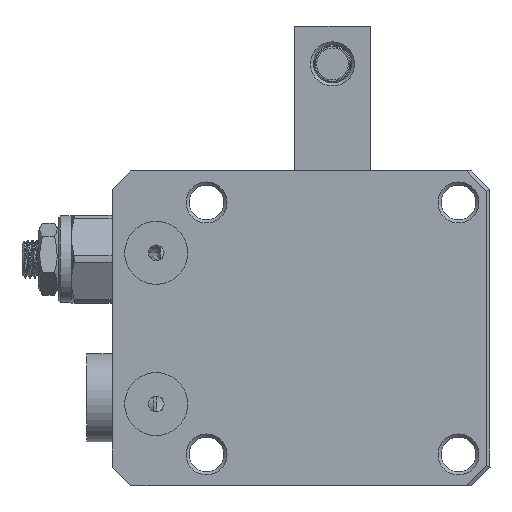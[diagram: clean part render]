
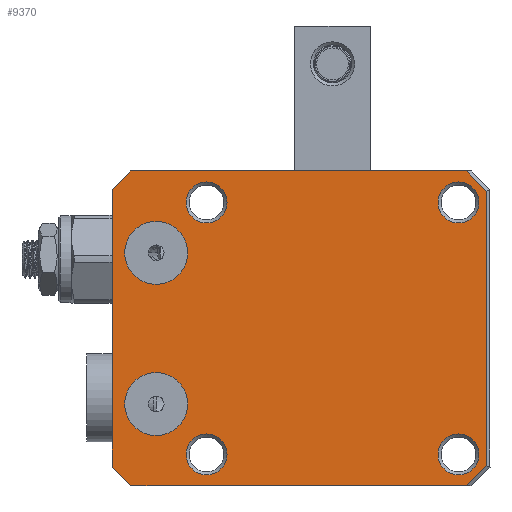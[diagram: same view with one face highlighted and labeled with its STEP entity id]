
A CAD part, front view. The second image highlights one B-rep face of the part: STEP entity #9370.
In plain terms, the highlighted planar face has unit normal (0, -1, 0).
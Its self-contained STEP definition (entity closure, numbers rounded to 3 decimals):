
#293=PLANE('',#10197);
#462=FACE_BOUND('',#1492,.T.);
#463=FACE_BOUND('',#1493,.T.);
#464=FACE_BOUND('',#1494,.T.);
#465=FACE_BOUND('',#1495,.T.);
#466=FACE_BOUND('',#1496,.T.);
#467=FACE_BOUND('',#1497,.T.);
#931=FACE_OUTER_BOUND('',#1491,.T.);
#1491=EDGE_LOOP('',(#6468,#6469,#6470,#6471,#6472,#6473,#6474,#6475));
#1492=EDGE_LOOP('',(#6476));
#1493=EDGE_LOOP('',(#6477));
#1494=EDGE_LOOP('',(#6478));
#1495=EDGE_LOOP('',(#6479));
#1496=EDGE_LOOP('',(#6480));
#1497=EDGE_LOOP('',(#6481));
#2121=LINE('',#14370,#2744);
#2143=LINE('',#14416,#2766);
#2144=LINE('',#14418,#2767);
#2145=LINE('',#14420,#2768);
#2146=LINE('',#14422,#2769);
#2147=LINE('',#14424,#2770);
#2148=LINE('',#14426,#2771);
#2149=LINE('',#14427,#2772);
#2744=VECTOR('',#11395,1000.);
#2766=VECTOR('',#11431,1000.);
#2767=VECTOR('',#11432,1000.);
#2768=VECTOR('',#11433,1000.);
#2769=VECTOR('',#11434,1000.);
#2770=VECTOR('',#11435,1000.);
#2771=VECTOR('',#11436,1000.);
#2772=VECTOR('',#11437,1000.);
#3335=CIRCLE('',#10123,3.25);
#3338=CIRCLE('',#10127,3.25);
#3341=CIRCLE('',#10131,3.25);
#3344=CIRCLE('',#10135,3.25);
#3346=CIRCLE('',#10138,5.);
#3348=CIRCLE('',#10141,5.);
#3883=VERTEX_POINT('',#14005);
#3886=VERTEX_POINT('',#14013);
#3889=VERTEX_POINT('',#14021);
#3892=VERTEX_POINT('',#14029);
#3894=VERTEX_POINT('',#14035);
#3896=VERTEX_POINT('',#14041);
#3949=VERTEX_POINT('',#14367);
#3950=VERTEX_POINT('',#14369);
#3967=VERTEX_POINT('',#14415);
#3968=VERTEX_POINT('',#14417);
#3969=VERTEX_POINT('',#14419);
#3970=VERTEX_POINT('',#14421);
#3971=VERTEX_POINT('',#14423);
#3972=VERTEX_POINT('',#14425);
#4833=EDGE_CURVE('',#3883,#3883,#3335,.T.);
#4837=EDGE_CURVE('',#3886,#3886,#3338,.T.);
#4841=EDGE_CURVE('',#3889,#3889,#3341,.T.);
#4845=EDGE_CURVE('',#3892,#3892,#3344,.T.);
#4848=EDGE_CURVE('',#3894,#3894,#3346,.T.);
#4851=EDGE_CURVE('',#3896,#3896,#3348,.T.);
#4923=EDGE_CURVE('',#3949,#3950,#2121,.T.);
#4946=EDGE_CURVE('',#3950,#3967,#2143,.T.);
#4947=EDGE_CURVE('',#3968,#3949,#2144,.T.);
#4948=EDGE_CURVE('',#3969,#3968,#2145,.T.);
#4949=EDGE_CURVE('',#3970,#3969,#2146,.T.);
#4950=EDGE_CURVE('',#3971,#3970,#2147,.T.);
#4951=EDGE_CURVE('',#3972,#3971,#2148,.T.);
#4952=EDGE_CURVE('',#3967,#3972,#2149,.T.);
#6468=ORIENTED_EDGE('',*,*,#4946,.F.);
#6469=ORIENTED_EDGE('',*,*,#4923,.F.);
#6470=ORIENTED_EDGE('',*,*,#4947,.F.);
#6471=ORIENTED_EDGE('',*,*,#4948,.F.);
#6472=ORIENTED_EDGE('',*,*,#4949,.F.);
#6473=ORIENTED_EDGE('',*,*,#4950,.F.);
#6474=ORIENTED_EDGE('',*,*,#4951,.F.);
#6475=ORIENTED_EDGE('',*,*,#4952,.F.);
#6476=ORIENTED_EDGE('',*,*,#4833,.F.);
#6477=ORIENTED_EDGE('',*,*,#4837,.F.);
#6478=ORIENTED_EDGE('',*,*,#4841,.F.);
#6479=ORIENTED_EDGE('',*,*,#4845,.F.);
#6480=ORIENTED_EDGE('',*,*,#4848,.F.);
#6481=ORIENTED_EDGE('',*,*,#4851,.F.);
#9370=ADVANCED_FACE('',(#931,#462,#463,#464,#465,#466,#467),#293,.F.);
#10123=AXIS2_PLACEMENT_3D('',#14007,#11222,#11223);
#10127=AXIS2_PLACEMENT_3D('',#14015,#11231,#11232);
#10131=AXIS2_PLACEMENT_3D('',#14023,#11240,#11241);
#10135=AXIS2_PLACEMENT_3D('',#14031,#11249,#11250);
#10138=AXIS2_PLACEMENT_3D('',#14037,#11256,#11257);
#10141=AXIS2_PLACEMENT_3D('',#14043,#11263,#11264);
#10197=AXIS2_PLACEMENT_3D('',#14414,#11429,#11430);
#11222=DIRECTION('center_axis',(0.,-1.,0.));
#11223=DIRECTION('ref_axis',(1.,0.,0.));
#11231=DIRECTION('center_axis',(0.,-1.,0.));
#11232=DIRECTION('ref_axis',(0.,0.,
-1.));
#11240=DIRECTION('center_axis',(0.,-1.,0.));
#11241=DIRECTION('ref_axis',(0.,0.,
-1.));
#11249=DIRECTION('center_axis',(0.,-1.,0.));
#11250=DIRECTION('ref_axis',(1.,0.,0.));
#11256=DIRECTION('center_axis',(0.,-1.,0.));
#11257=DIRECTION('ref_axis',(0.,0.,-1.));
#11263=DIRECTION('center_axis',(0.,-1.,0.));
#11264=DIRECTION('ref_axis',(0.,0.,-1.));
#11395=DIRECTION('',(1.,0.,0.));
#11429=DIRECTION('center_axis',(0.,1.,0.));
#11430=DIRECTION('ref_axis',(0.,0.,1.));
#11431=DIRECTION('',(0.707,0.,-0.707));
#11432=DIRECTION('',(0.707,0.,0.707));
#11433=DIRECTION('',(0.,0.,1.));
#11434=DIRECTION('',(-0.707,0.,0.707));
#11435=DIRECTION('',(-1.,0.,0.));
#11436=DIRECTION('',(-0.707,0.,-0.707));
#11437=DIRECTION('',(0.,0.,-1.));
#14005=CARTESIAN_POINT('',(408.583,54.859,20.));
#14007=CARTESIAN_POINT('Origin',(411.833,54.859,20.));
#14013=CARTESIAN_POINT('',(451.833,54.859,23.25));
#14015=CARTESIAN_POINT('Origin',(451.833,54.859,20.));
#14021=CARTESIAN_POINT('',(451.833,54.859,-16.75));
#14023=CARTESIAN_POINT('Origin',(451.833,54.859,-20.));
#14029=CARTESIAN_POINT('',(408.583,54.859,-20.));
#14031=CARTESIAN_POINT('Origin',(411.833,54.859,-20.));
#14035=CARTESIAN_POINT('',(403.833,54.859,17.));
#14037=CARTESIAN_POINT('Origin',(403.833,54.859,12.));
#14041=CARTESIAN_POINT('',(403.833,54.859,-7.));
#14043=CARTESIAN_POINT('Origin',(403.833,54.859,-12.));
#14367=CARTESIAN_POINT('',(399.833,54.859,25.));
#14369=CARTESIAN_POINT('',(453.126,54.859,25.));
#14370=CARTESIAN_POINT('',(399.833,54.859,25.));
#14414=CARTESIAN_POINT('Origin',(456.333,54.859,-25.));
#14415=CARTESIAN_POINT('',(456.333,54.859,21.793));
#14416=CARTESIAN_POINT('',(453.126,54.859,25.));
#14417=CARTESIAN_POINT('',(396.833,54.859,22.));
#14418=CARTESIAN_POINT('',(396.833,54.859,22.));
#14419=CARTESIAN_POINT('',(396.833,54.859,-22.));
#14420=CARTESIAN_POINT('',(396.833,54.859,-25.));
#14421=CARTESIAN_POINT('',(399.833,54.859,-25.));
#14422=CARTESIAN_POINT('',(399.833,54.859,-25.));
#14423=CARTESIAN_POINT('',(453.126,54.859,-25.));
#14424=CARTESIAN_POINT('',(456.333,54.859,-25.));
#14425=CARTESIAN_POINT('',(456.333,54.859,-21.793));
#14426=CARTESIAN_POINT('',(456.333,54.859,-21.793));
#14427=CARTESIAN_POINT('',(456.333,54.859,-25.));
